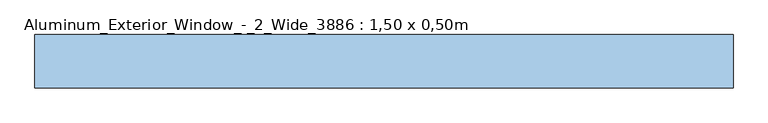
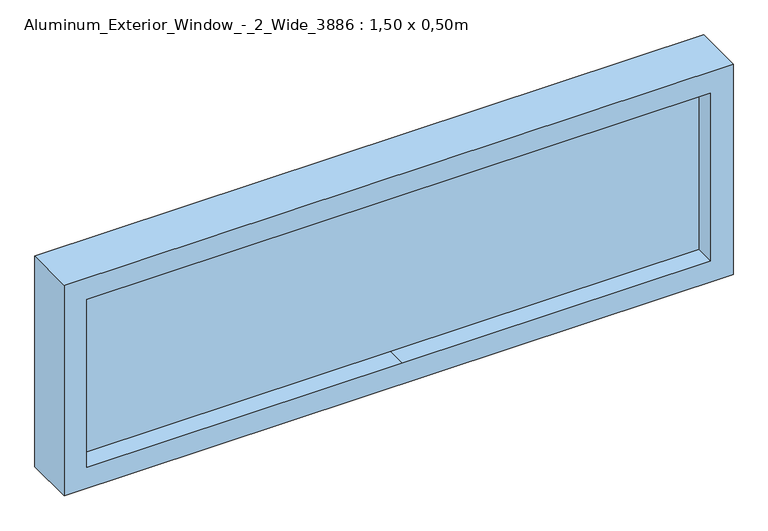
"""IFC4 building model written with IfcOpenShell, lengths in millimetres: window geometry, Aluminum_Exterior_Window_-_2_Wide_3886 : 1,50 x 0,50m."""

from ifc_helpers import new_model, si_unit, frame, origin, place, context, project, spatial, polyline, outline, extrude, source, transform, mapped, element, save


def aluminum_exterior_window_2_wide_3886_1_50_x_0_50m_718bd5c1(model_context):
    return source(origin(), model_context, "Body", "SweptSolid", [
        extrude(outline(polyline([(1560.0, -1371.6), (1060.0, -1371.6), (1060.0, 128.4), (1560.0, 128.4), (1560.0, -1371.6)]), holes=[polyline([(1509.2, -647.0), (1509.2, 77.6), (1110.8, 77.6), (1110.8, -613.8808837), (1110.8, -1320.8), (1509.2, -1320.8), (1509.2, -647.0)])]), frame((0.0, -38.1424754, 0.0), z_axis=(0.0, 1.0, 0.0), x_axis=(0.0, 0.0, 1.0)), (0.0, 0.0, 1.0), 114.3),
        extrude(outline(polyline([(1509.2, -647.0), (1509.2, -1320.8), (1110.8, -1320.8), (1110.8, -620.891469), (1110.8, 77.6), (1509.2, 77.6), (1509.2, -647.0)])), frame((0.0, 6.3075246, 0.0), z_axis=(0.0, 1.0, 0.0), x_axis=(0.0, 0.0, 1.0)), (0.0, 0.0, 1.0), 25.4),
    ])


if __name__ == "__main__":
    model = new_model("IFC4")
    model_context = context("Model", 3, world=origin())
    ifc_project = project(units=[si_unit("LENGTHUNIT", "METRE", prefix="MILLI")], contexts=[model_context])
    site = spatial("IfcSite", under=ifc_project)
    building = spatial("IfcBuilding", under=site)
    placement = place(None, origin())
    aluminum_exterior_window_2_wide_3886_1_50_x_0_50m_shape = aluminum_exterior_window_2_wide_3886_1_50_x_0_50m_718bd5c1(model_context)
    element("IfcWindow", 1, ObjectType="Aluminum_Exterior_Window_-_2_Wide_3886 : 1,50 x 0,50m", at=placement, inside=building, context=model_context, shape_type="MappedRepresentation", body=[
        mapped(aluminum_exterior_window_2_wide_3886_1_50_x_0_50m_shape, transform((0.0, 0.0, 0.0), x_axis=(1.0, 0.0, 0.0), y_axis=(0.0, 1.0, 0.0), z_axis=(0.0, 0.0, 1.0))),
    ])
    save(model, "model.ifc")
